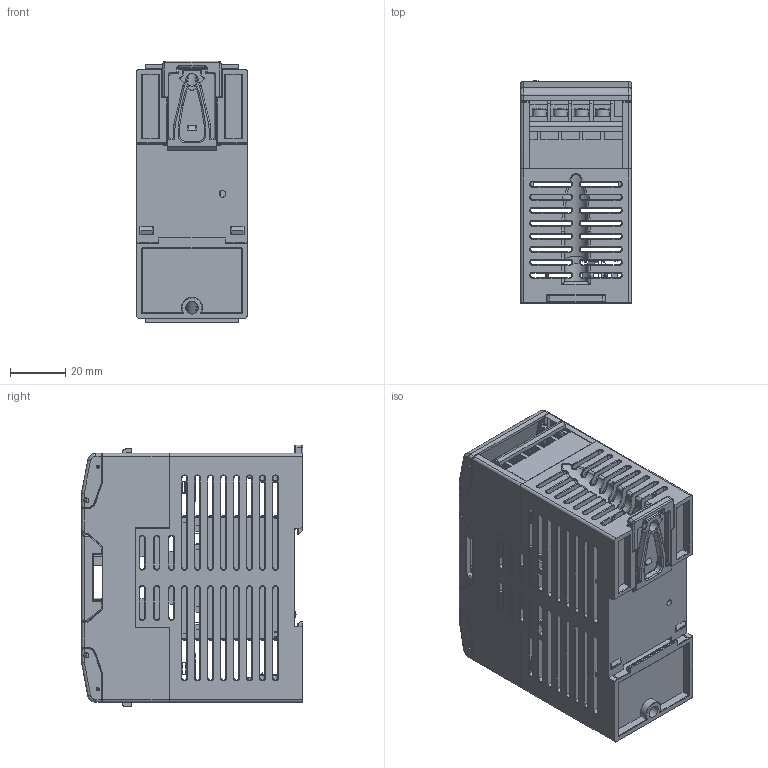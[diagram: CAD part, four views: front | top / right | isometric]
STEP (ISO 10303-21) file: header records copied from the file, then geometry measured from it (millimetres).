
FILE_DESCRIPTION(/* description */ (''),/* implementation_level */ '2;1');
FILE_NAME(/* name */ 'FB25F0~1',/* time_stamp */ '2021-06-10T13:56:22+08:00',/* author */ (''),/* organization */ (''),/* preprocessor_version */ 'ST-DEVELOPER v16.5',/* originating_system */ '',/* authorisation */ '');
FILE_SCHEMA (('CONFIG_CONTROL_DESIGN'));
Products named in the file (1): Document
Bounding box: 40 x 80.15 x 94.65 mm (x, y, z)
Surface area: 61786.8 mm2 (no closed solid volume)
Topology: 0 solids, 3079 shells, 3079 faces, 15775 edges, 15763 vertices
Faces by surface type: plane 1503, cylinder 1033, bspline 543
Entity records: 212698 total; most frequent: CARTESIAN_POINT 105775, ORIENTED_EDGE 15767, EDGE_CURVE 15767, VERTEX_POINT 15763, B_SPLINE_CURVE_WITH_KNOTS 11594, EDGE_LOOP 3232, SHELL_BASED_SURFACE_MODEL 3079, OPEN_SHELL 3079
